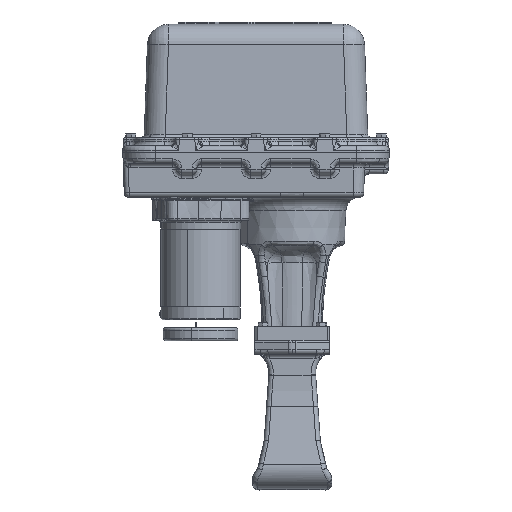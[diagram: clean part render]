
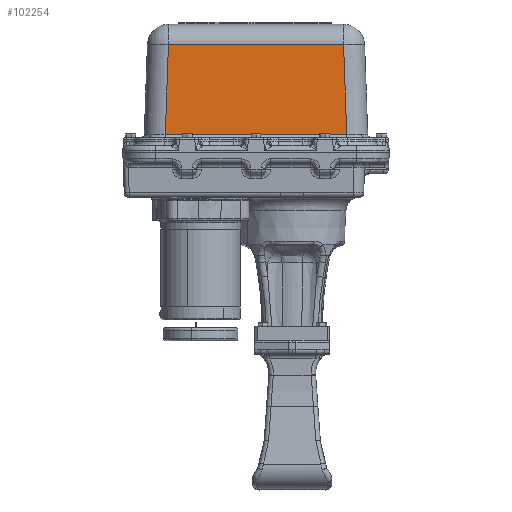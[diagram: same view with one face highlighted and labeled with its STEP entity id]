
A CAD part, front view. The second image highlights one B-rep face of the part: STEP entity #102254.
In plain terms, the highlighted planar face has unit normal (0, -0.999, 0.035).
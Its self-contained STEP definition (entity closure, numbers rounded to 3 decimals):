
#3218 = VERTEX_POINT ( 'NONE', #12534 ) ;
#3220 = VERTEX_POINT ( 'NONE', #12536 ) ;
#3230 = VERTEX_POINT ( 'NONE', #12545 ) ;
#8987 = CARTESIAN_POINT ( 'NONE',  ( -6.788, -4.037, 0.868 ) ) ;
#12534 = CARTESIAN_POINT ( 'NONE',  ( 2.913, -4.037, 0.868 ) ) ;
#12536 = CARTESIAN_POINT ( 'NONE',  ( -6.62, -3.87, 5.664 ) ) ;
#12545 = CARTESIAN_POINT ( 'NONE',  ( 2.745, -3.87, 5.664 ) ) ;
#12959 = EDGE_CURVE ( 'NONE', #3220, #90414, #135419, .T. ) ;
#12960 = EDGE_CURVE ( 'NONE', #3230, #3220, #135433, .T. ) ;
#12973 = EDGE_CURVE ( 'NONE', #90414, #3218, #135503, .T. ) ;
#13011 = EDGE_CURVE ( 'NONE', #3218, #3230, #133928, .T. ) ;
#16466 = FACE_OUTER_BOUND ( 'NONE', #158259, .T. ) ;
#18267 = PLANE ( 'NONE',  #85741 ) ;
#18268 = CARTESIAN_POINT ( 'NONE',  ( -7.951, -4.076, -0.25 ) ) ;
#18283 = DIRECTION ( 'NONE',  ( 0., -0.999, 0.035 ) ) ;
#18294 = DIRECTION ( 'NONE',  ( 0., 0.035, 0.999 ) ) ;
#85741 = AXIS2_PLACEMENT_3D ( 'NONE', #18268, #18283, #18294 ) ;
#90414 = VERTEX_POINT ( 'NONE', #8987 ) ;
#99741 = ORIENTED_EDGE ( 'NONE', *, *, #12973, .T. ) ;
#100728 = ORIENTED_EDGE ( 'NONE', *, *, #12959, .T. ) ;
#101331 = ORIENTED_EDGE ( 'NONE', *, *, #13011, .T. ) ;
#101467 = ORIENTED_EDGE ( 'NONE', *, *, #12960, .T. ) ;
#102254 = ADVANCED_FACE ( 'NONE', ( #16466 ), #18267, .T. ) ;
#133749 = VECTOR ( 'NONE', #178309, 39.37 ) ;
#133928 = LINE ( 'NONE', #178312, #133749 ) ;
#135419 = LINE ( 'NONE', #180484, #135424 ) ;
#135424 = VECTOR ( 'NONE', #180479, 39.37 ) ;
#135431 = VECTOR ( 'NONE', #180524, 39.37 ) ;
#135433 = LINE ( 'NONE', #180482, #135431 ) ;
#135500 = VECTOR ( 'NONE', #180587, 39.37 ) ;
#135503 = LINE ( 'NONE', #180585, #135500 ) ;
#158259 = EDGE_LOOP ( 'NONE', ( #99741, #101331, #101467, #100728 ) ) ;
#178309 = DIRECTION ( 'NONE',  ( -0.035, 0.035, 0.999 ) ) ;
#178312 = CARTESIAN_POINT ( 'NONE',  ( 2.939, -4.063, 0.13 ) ) ;
#180479 = DIRECTION ( 'NONE',  ( -0.035, -0.035, -0.999 ) ) ;
#180482 = CARTESIAN_POINT ( 'NONE',  ( -7.707, -3.87, 5.664 ) ) ;
#180484 = CARTESIAN_POINT ( 'NONE',  ( -6.828, -4.078, -0.289 ) ) ;
#180524 = DIRECTION ( 'NONE',  ( -1., 0., 0. ) ) ;
#180585 = CARTESIAN_POINT ( 'NONE',  ( -7.951, -4.037, 0.868 ) ) ;
#180587 = DIRECTION ( 'NONE',  ( 1., 0., 0. ) ) ;
